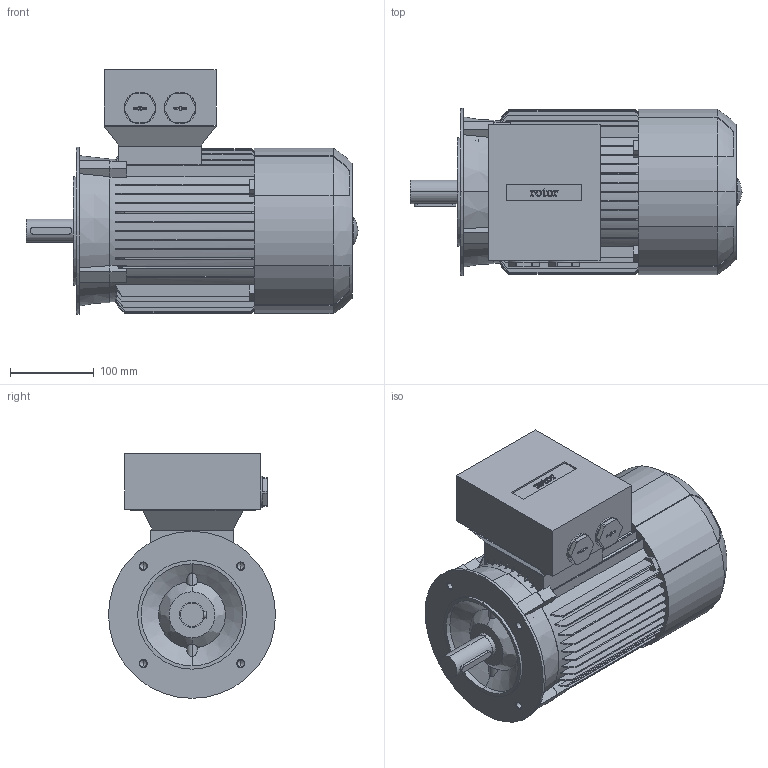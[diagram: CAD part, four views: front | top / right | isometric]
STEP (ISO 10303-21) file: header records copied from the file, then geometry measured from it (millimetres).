
FILE_DESCRIPTION (( 'STEP AP214' ), '1' );
FILE_NAME ('6RN100L06E24 IM3601 FT165.STEP', '2014-09-15T11:52:51', ( 'rbc_ict' ), ( 'REGAL' ), 'SwSTEP 2.0', 'SolidWorks 2012', '' );
FILE_SCHEMA (( 'AUTOMOTIVE_DESIGN' ));
Length unit declared in the file: millimetre
Products named in the file (1): 6RN100L06E24 IM3601 FT165
Bounding box: 397.5 x 200 x 293 mm (x, y, z)
Volume: 10551672.6 mm3; surface area: 519995.8 mm2
Topology: 1 solids, 1 shells, 636 faces, 1780 edges, 1166 vertices
Faces by surface type: plane 348, bspline 142, cylinder 119, cone 27
Entity records: 24461 total; most frequent: CARTESIAN_POINT 8904, ORIENTED_EDGE 3540, DIRECTION 2849, EDGE_CURVE 1770, VERTEX_POINT 1166, VECTOR 979, LINE 979, AXIS2_PLACEMENT_3D 935
